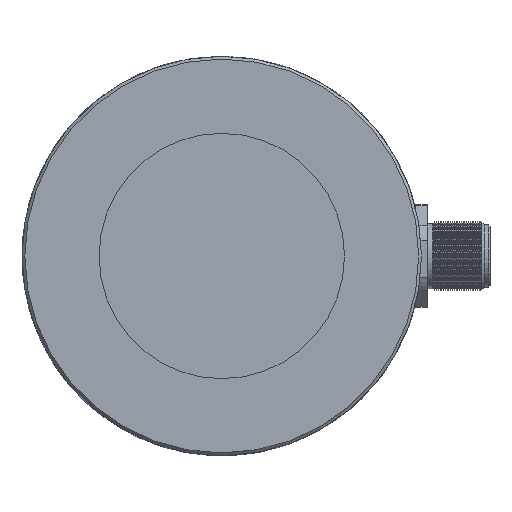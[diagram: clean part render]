
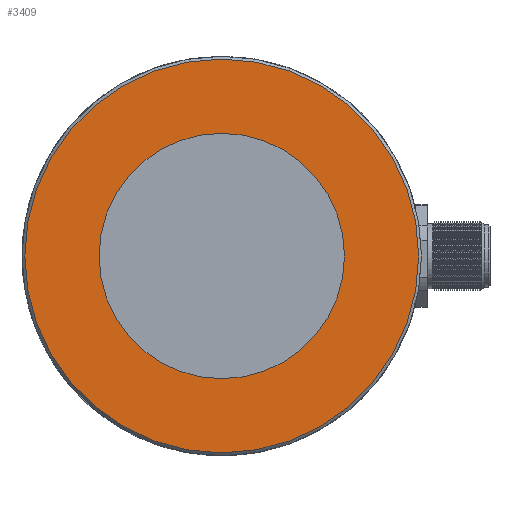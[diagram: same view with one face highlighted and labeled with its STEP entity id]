
A CAD part, left-side view. The second image highlights one B-rep face of the part: STEP entity #3409.
In plain terms, the highlighted planar face has unit normal (-1, 0, 0).
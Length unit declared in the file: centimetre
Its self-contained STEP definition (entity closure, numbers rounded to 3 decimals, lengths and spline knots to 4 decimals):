
#688=PLANE('',#3674);
#816=VERTEX_POINT('',#4021);
#833=VERTEX_POINT('',#4049);
#1129=CIRCLE('',#3668,3.45);
#1135=CIRCLE('',#3675,2.15);
#1290=EDGE_CURVE('',#816,#816,#1129,.T.);
#1307=EDGE_CURVE('',#833,#833,#1135,.T.);
#1767=ORIENTED_EDGE('',*,*,#1307,.T.);
#1768=ORIENTED_EDGE('',*,*,#1290,.F.);
#2673=EDGE_LOOP('',(#1767));
#2674=EDGE_LOOP('',(#1768));
#3044=FACE_BOUND('',#2673,.T.);
#3045=FACE_BOUND('',#2674,.T.);
#3409=ADVANCED_FACE('',(#3044,#3045),#688,.F.);
#3668=AXIS2_PLACEMENT_3D('',#4020,#5781,#5782);
#3674=AXIS2_PLACEMENT_3D('',#4047,#5797,$);
#3675=AXIS2_PLACEMENT_3D('',#4048,#5798,#5799);
#4020=CARTESIAN_POINT('',(-4.4,0.,0.));
#4021=CARTESIAN_POINT('',(-4.4,0.,-3.45));
#4047=CARTESIAN_POINT('',(-4.4,0.,0.));
#4048=CARTESIAN_POINT('',(-4.4,0.,0.));
#4049=CARTESIAN_POINT('',(-4.4,0.,-2.15));
#5781=DIRECTION('',(1.,0.,0.));
#5782=DIRECTION('',(0.,0.,3.45));
#5797=DIRECTION('',(1.,0.,0.));
#5798=DIRECTION('',(1.,0.,0.));
#5799=DIRECTION('',(0.,0.,-2.15));
